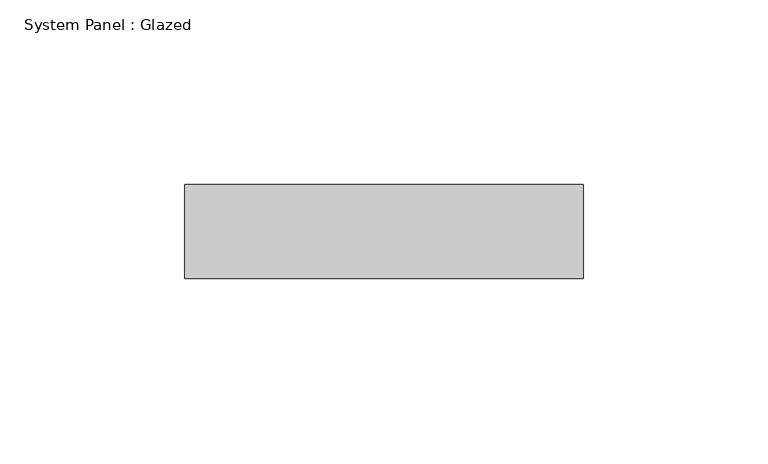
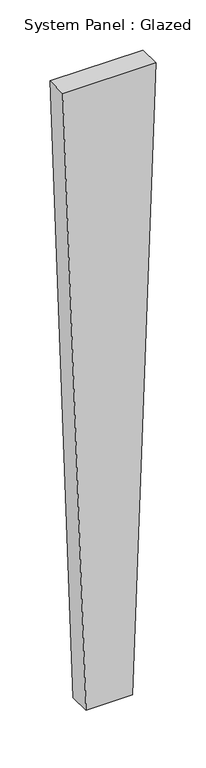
"""IFC4 building model written with IfcOpenShell, lengths in millimetres: plate geometry, System Panel : Glazed."""

from ifc_helpers import new_model, si_unit, frame, origin, place, context, project, spatial, polyline, outline, extrude, source, transform, mapped, element, save


def system_panel_glazed_1fc521db(model_context):
    return source(origin(), model_context, "Body", "SweptSolid", [
        extrude(outline(polyline([(0.0, -26.9334434), (0.0, 26.9334434), (761.5238602, 53.8668869), (761.5238602, -53.8668869), (0.0, -26.9334434)])), frame((0.0, -44.45, 0.0), z_axis=(0.0, 1.0, 0.0), x_axis=(0.0, 0.0, 1.0)), (0.0, 0.0, 1.0), 25.4),
    ])


if __name__ == "__main__":
    model = new_model("IFC4")
    model_context = context("Model", 3, world=origin())
    ifc_project = project(units=[si_unit("LENGTHUNIT", "METRE", prefix="MILLI")], contexts=[model_context])
    site = spatial("IfcSite", under=ifc_project)
    building = spatial("IfcBuilding", under=site)
    placement = place(None, origin())
    system_panel_glazed_shape = system_panel_glazed_1fc521db(model_context)
    element("IfcPlate", 1, ObjectType="System Panel : Glazed", at=placement, inside=building, context=model_context, shape_type="MappedRepresentation", body=[
        mapped(system_panel_glazed_shape, transform((0.0, 0.0, 0.0), x_axis=(1.0, 0.0, 0.0), y_axis=(0.0, 1.0, 0.0), z_axis=(0.0, 0.0, 1.0))),
    ])
    save(model, "model.ifc")
